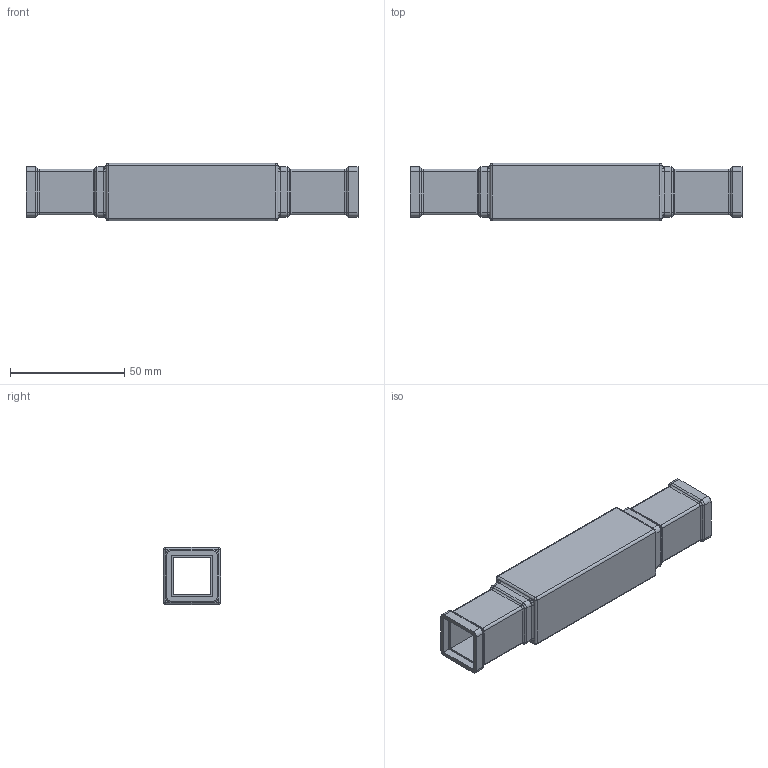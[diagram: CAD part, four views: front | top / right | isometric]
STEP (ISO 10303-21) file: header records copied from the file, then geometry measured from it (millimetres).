
FILE_DESCRIPTION (( 'STEP AP214' ), '1' );
FILE_NAME ('115.301.106.STEP', '2023-06-15T07:45:50', ( '' ), ( '' ), 'SwSTEP 2.0', 'SolidWorks 2021', '' );
FILE_SCHEMA (( 'AUTOMOTIVE_DESIGN' ));
Length unit declared in the file: millimetre
Products named in the file (1): 115.301.106
Bounding box: 145 x 25 x 25 mm (x, y, z)
Volume: 22647 mm3; surface area: 25056.6 mm2
Topology: 1 solids, 1 shells, 212 faces, 468 edges, 256 vertices
Faces by surface type: cylinder 76, plane 72, bspline 64
Entity records: 6902 total; most frequent: CARTESIAN_POINT 2505, ORIENTED_EDGE 920, DIRECTION 902, EDGE_CURVE 460, AXIS2_PLACEMENT_3D 333, VERTEX_POINT 256, LINE 236, VECTOR 236
